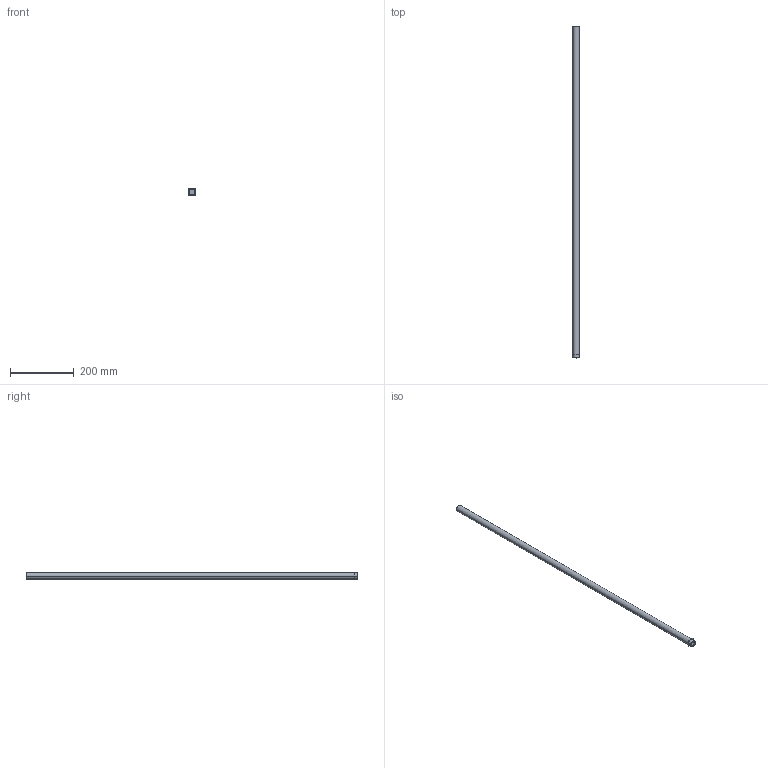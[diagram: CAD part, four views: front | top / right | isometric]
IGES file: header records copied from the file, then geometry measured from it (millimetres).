
Start section:  PTC IGES file: 614271.igs
Global section: file name: 614271.igs; native system: Creo Elements/Pro by Parametric Technology Corporation; preprocessor: 2011080; author: lff; organization: Unknown; date: 20120508.091253; units: millimetre
Bounding box: 20.76 x 1045 x 20.76 mm (x, y, z)
Volume: 107614.1 mm3; surface area: 125722.1 mm2
Topology: 1 solids, 2 shells, 17 faces, 54 edges, 56 vertices
Faces by surface type: revolution 12, bspline 5
